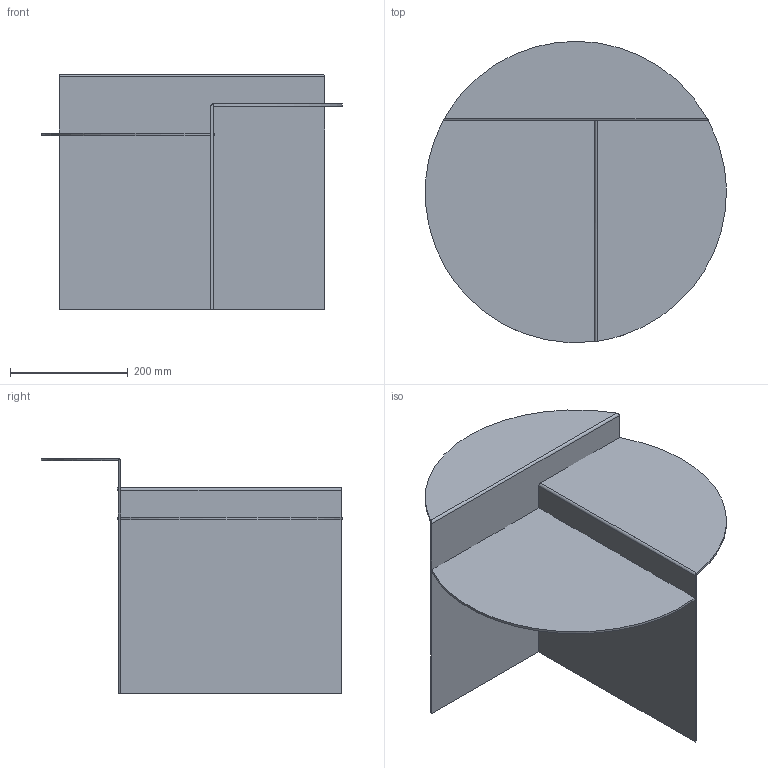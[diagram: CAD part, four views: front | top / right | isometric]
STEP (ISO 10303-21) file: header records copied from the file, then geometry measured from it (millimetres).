
FILE_DESCRIPTION(/* description */ (''),/* implementation_level */ '2;1');
FILE_NAME(/* name */ 'FRAMA_Rivet-SideTable-3D',/* time_stamp */ '2025-10-22T12:00:54+02:00',/* author */ (''),/* organization */ (''),/* preprocessor_version */ 'ST-DEVELOPER v16.5',/* originating_system */ 'Rhino 7.38',/* authorisation */ '');
FILE_SCHEMA (('CONFIG_CONTROL_DESIGN'));
Length unit declared in the file: millimetre
Products named in the file (1): Document
Bounding box: 512.27 x 512.72 x 400 mm (x, y, z)
Volume: 2063971 mm3; surface area: 1050248 mm2
Topology: 3 solids, 3 shells, 105 faces, 290 edges, 191 vertices
Faces by surface type: plane 97, cylinder 8
Entity records: 2973 total; most frequent: CARTESIAN_POINT 1119, ORIENTED_EDGE 580, EDGE_CURVE 290, VERTEX_POINT 191, EDGE_LOOP 125, DIRECTION 109, AXIS2_PLACEMENT_3D 107, ADVANCED_FACE 105
